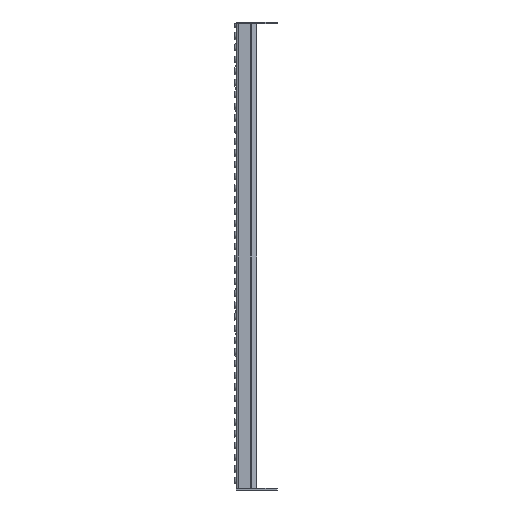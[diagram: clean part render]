
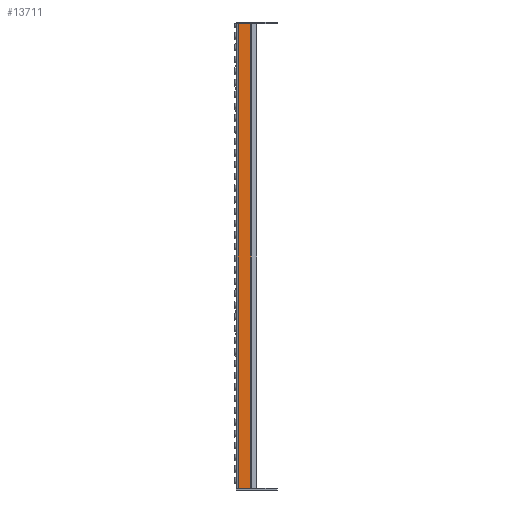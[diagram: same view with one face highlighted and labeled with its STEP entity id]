
A CAD part, left-side view. The second image highlights one B-rep face of the part: STEP entity #13711.
In plain terms, the highlighted planar face has unit normal (-1, 0, 0).
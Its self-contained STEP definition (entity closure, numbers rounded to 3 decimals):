
#2018=FACE_OUTER_BOUND('',#2885,.T.);
#2885=EDGE_LOOP('',(#12224,#12225,#12226,#12227));
#4061=LINE('',#27796,#5318);
#4072=LINE('',#27826,#5329);
#4082=LINE('',#27849,#5339);
#4089=LINE('',#27864,#5346);
#5318=VECTOR('',#18861,10.);
#5329=VECTOR('',#18886,10.);
#5339=VECTOR('',#18908,10.);
#5346=VECTOR('',#18927,10.);
#6576=VERTEX_POINT('',#27793);
#6577=VERTEX_POINT('',#27795);
#6589=VERTEX_POINT('',#27825);
#6596=VERTEX_POINT('',#27848);
#8458=EDGE_CURVE('',#6577,#6576,#4061,.T.);
#8473=EDGE_CURVE('',#6576,#6589,#4072,.T.);
#8485=EDGE_CURVE('',#6596,#6577,#4082,.T.);
#8493=EDGE_CURVE('',#6589,#6596,#4089,.T.);
#12224=ORIENTED_EDGE('',*,*,#8473,.T.);
#12225=ORIENTED_EDGE('',*,*,#8493,.T.);
#12226=ORIENTED_EDGE('',*,*,#8485,.T.);
#12227=ORIENTED_EDGE('',*,*,#8458,.T.);
#12876=PLANE('',#15191);
#13711=ADVANCED_FACE('',(#2018),#12876,.T.);
#15191=AXIS2_PLACEMENT_3D('',#27865,#18928,#18929);
#18861=DIRECTION('',(0.,1.,0.));
#18886=DIRECTION('',(0.,0.,-1.));
#18908=DIRECTION('',(0.,0.,1.));
#18927=DIRECTION('',(0.,-1.,0.));
#18928=DIRECTION('center_axis',(-1.,0.,0.));
#18929=DIRECTION('ref_axis',(0.,0.,1.));
#27793=CARTESIAN_POINT('',(0.,-3.25,794.));
#27795=CARTESIAN_POINT('',(0.,-24.427,794.));
#27796=CARTESIAN_POINT('',(0.,0.,794.));
#27825=CARTESIAN_POINT('',(0.,-3.25,0.));
#27826=CARTESIAN_POINT('',(0.,-3.25,0.));
#27848=CARTESIAN_POINT('',(0.,-24.427,0.));
#27849=CARTESIAN_POINT('',(0.,-24.427,198.5));
#27864=CARTESIAN_POINT('',(0.,0.,0.));
#27865=CARTESIAN_POINT('Origin',(0.,-25.,0.));
